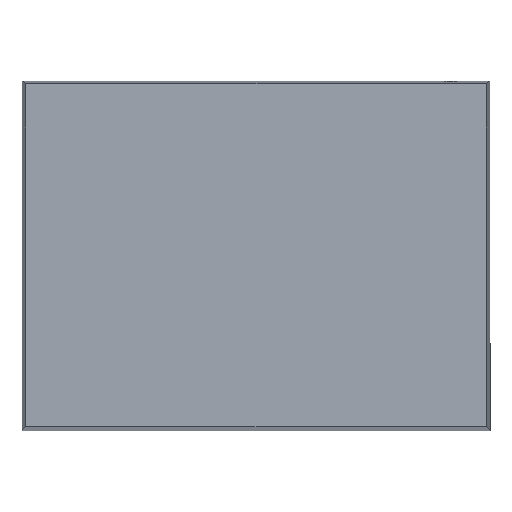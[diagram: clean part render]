
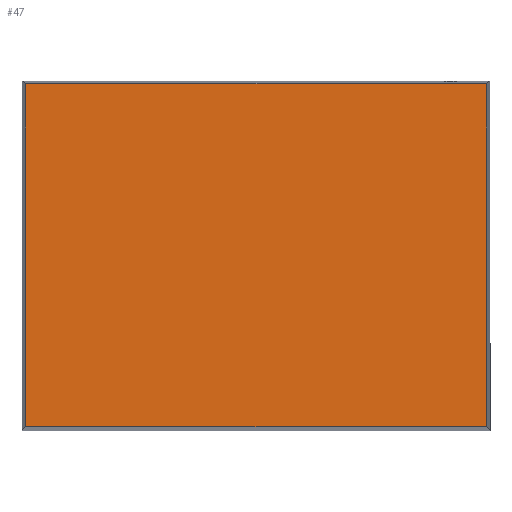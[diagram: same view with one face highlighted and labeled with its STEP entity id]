
A CAD part, top view. The second image highlights one B-rep face of the part: STEP entity #47.
In plain terms, the highlighted planar face has unit normal (0, 0, 1).
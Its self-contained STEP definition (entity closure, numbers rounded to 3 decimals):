
#1 = VECTOR ( 'NONE', #584, 1000. ) ;
#21 = VERTEX_POINT ( 'NONE', #851 ) ;
#47 = ADVANCED_FACE ( 'NONE', ( #912 ), #438, .T. ) ;
#219 = VECTOR ( 'NONE', #730, 1000. ) ;
#220 = CARTESIAN_POINT ( 'NONE',  ( 5.661, -4.211, 10.2 ) ) ;
#239 = ORIENTED_EDGE ( 'NONE', *, *, #695, .T. ) ;
#248 = VECTOR ( 'NONE', #1009, 1000. ) ;
#309 = CARTESIAN_POINT ( 'NONE',  ( 0., 0., 10.2 ) ) ;
#318 = EDGE_CURVE ( 'NONE', #930, #865, #357, .T. ) ;
#357 = LINE ( 'NONE', #814, #824 ) ;
#369 = LINE ( 'NONE', #680, #1 ) ;
#376 = AXIS2_PLACEMENT_3D ( 'NONE', #309, #542, #1016 ) ;
#418 = CARTESIAN_POINT ( 'NONE',  ( -5.661, 4.211, 10.2 ) ) ;
#419 = CARTESIAN_POINT ( 'NONE',  ( -5.661, 4.3, 10.2 ) ) ;
#438 = PLANE ( 'NONE',  #376 ) ;
#441 = CARTESIAN_POINT ( 'NONE',  ( -5.661, -4.211, 10.2 ) ) ;
#443 = EDGE_LOOP ( 'NONE', ( #502, #799, #239, #660 ) ) ;
#494 = LINE ( 'NONE', #419, #219 ) ;
#502 = ORIENTED_EDGE ( 'NONE', *, *, #762, .T. ) ;
#525 = EDGE_CURVE ( 'NONE', #21, #991, #369, .T. ) ;
#542 = DIRECTION ( 'NONE',  ( 0., 0., 1. ) ) ;
#584 = DIRECTION ( 'NONE',  ( -1., 0., 0. ) ) ;
#596 = DIRECTION ( 'NONE',  ( 1., 0., 0. ) ) ;
#660 = ORIENTED_EDGE ( 'NONE', *, *, #318, .T. ) ;
#680 = CARTESIAN_POINT ( 'NONE',  ( -5.75, 4.211, 10.2 ) ) ;
#695 = EDGE_CURVE ( 'NONE', #991, #930, #494, .T. ) ;
#730 = DIRECTION ( 'NONE',  ( 0., -1., 0. ) ) ;
#762 = EDGE_CURVE ( 'NONE', #865, #21, #1006, .T. ) ;
#799 = ORIENTED_EDGE ( 'NONE', *, *, #525, .T. ) ;
#814 = CARTESIAN_POINT ( 'NONE',  ( -5.75, -4.211, 10.2 ) ) ;
#824 = VECTOR ( 'NONE', #596, 1000. ) ;
#851 = CARTESIAN_POINT ( 'NONE',  ( 5.661, 4.211, 10.2 ) ) ;
#865 = VERTEX_POINT ( 'NONE', #220 ) ;
#912 = FACE_OUTER_BOUND ( 'NONE', #443, .T. ) ;
#919 = CARTESIAN_POINT ( 'NONE',  ( 5.661, 4.3, 10.2 ) ) ;
#930 = VERTEX_POINT ( 'NONE', #441 ) ;
#991 = VERTEX_POINT ( 'NONE', #418 ) ;
#1006 = LINE ( 'NONE', #919, #248 ) ;
#1009 = DIRECTION ( 'NONE',  ( 0., 1., 0. ) ) ;
#1016 = DIRECTION ( 'NONE',  ( 1., 0., 0. ) ) ;
